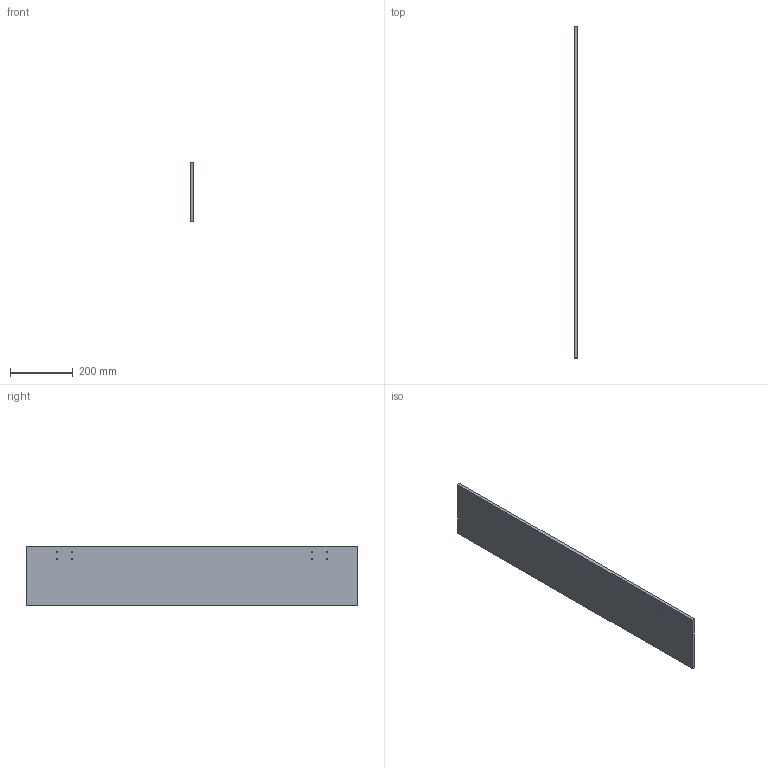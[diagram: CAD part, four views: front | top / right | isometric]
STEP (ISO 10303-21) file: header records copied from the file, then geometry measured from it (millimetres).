
FILE_DESCRIPTION(('CATIA V5 STEP Exchange'),'2;1');
FILE_NAME('E:\CNC\CNC_REV3_PLAN_FINAL\FICHIERS POUR USINAGE DES PIECES PORTIQUE\PIECES_AVEC_TROU\AXE_Y_BAS.stp','2016-09-06T20:11:33+00:00',('none'),('none'),'CATIA Version 5 Release 19 SP 2 (IN-10)','CATIA V5 STEP AP203','none');
FILE_SCHEMA(('CONFIG_CONTROL_DESIGN'));
Length unit declared in the file: millimetre
Products named in the file (1): Portique_Partie_Bas_VAB
Bounding box: 10 x 1060 x 190 mm (x, y, z)
Volume: 2013434.5 mm3; surface area: 428440.9 mm2
Topology: 1 solids, 1 shells, 22 faces, 60 edges, 40 vertices
Faces by surface type: cylinder 16, plane 6
Entity records: 718 total; most frequent: ORIENTED_EDGE 120, CARTESIAN_POINT 115, DIRECTION 88, EDGE_CURVE 60, AXIS2_PLACEMENT_3D 47, VERTEX_POINT 40, EDGE_LOOP 38, CIRCLE 32
